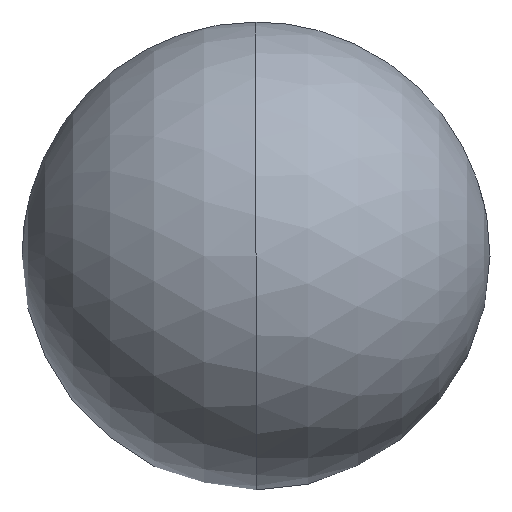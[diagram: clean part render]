
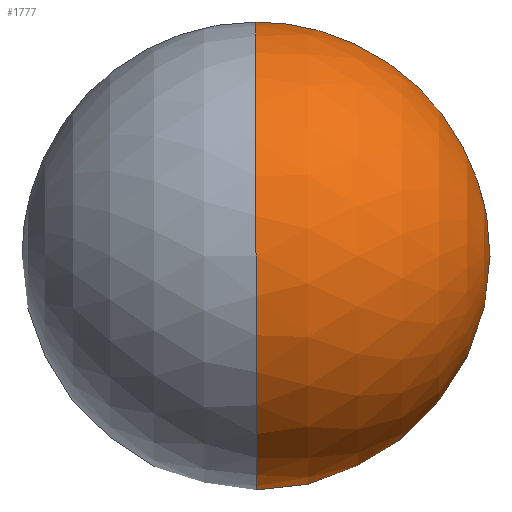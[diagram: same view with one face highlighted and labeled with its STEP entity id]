
A CAD part, front view. The second image highlights one B-rep face of the part: STEP entity #1777.
In plain terms, the highlighted spherical face has radius 200 mm.
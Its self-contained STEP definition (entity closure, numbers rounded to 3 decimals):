
#168 = EDGE_CURVE ( 'NONE', #1411, #1410, #3687, .T. ) ;
#192 = EDGE_CURVE ( 'NONE', #1410, #1413, #3716, .T. ) ;
#278 = EDGE_CURVE ( 'NONE', #1413, #1419, #3820, .T. ) ;
#280 = EDGE_CURVE ( 'NONE', #1411, #1419, #3822, .T. ) ;
#381 = ORIENTED_EDGE ( 'NONE', *, *, #278, .F. ) ;
#382 = ORIENTED_EDGE ( 'NONE', *, *, #192, .F. ) ;
#383 = ORIENTED_EDGE ( 'NONE', *, *, #168, .F. ) ;
#384 = ORIENTED_EDGE ( 'NONE', *, *, #280, .T. ) ;
#746 = AXIS2_PLACEMENT_3D ( 'NONE', #2773, #2780, #2781 ) ;
#794 = AXIS2_PLACEMENT_3D ( 'NONE', #2469, #2475, #2476 ) ;
#820 = AXIS2_PLACEMENT_3D ( 'NONE', #2539, #2540, #2541 ) ;
#823 = AXIS2_PLACEMENT_3D ( 'NONE', #2782, #2785, #2786 ) ;
#1410 = VERTEX_POINT ( 'NONE', #3176 ) ;
#1411 = VERTEX_POINT ( 'NONE', #3177 ) ;
#1413 = VERTEX_POINT ( 'NONE', #3179 ) ;
#1419 = VERTEX_POINT ( 'NONE', #3185 ) ;
#1777 = ADVANCED_FACE ( 'NONE', ( #5309 ), #5319, .T. ) ;
#1912 = AXIS2_PLACEMENT_3D ( 'NONE', #4467, #4466, #4469 ) ;
#2469 = CARTESIAN_POINT ( 'NONE',  ( 0., -195.959, 0. ) ) ;
#2475 = DIRECTION ( 'NONE',  ( 0., -1., 0. ) ) ;
#2476 = DIRECTION ( 'NONE',  ( 0., 0., 1. ) ) ;
#2539 = CARTESIAN_POINT ( 'NONE',  ( 0., -195.959, 0. ) ) ;
#2540 = DIRECTION ( 'NONE',  ( 0., -1., 0. ) ) ;
#2541 = DIRECTION ( 'NONE',  ( 0., 0., 1. ) ) ;
#2773 = CARTESIAN_POINT ( 'NONE',  ( 0., 0., 0. ) ) ;
#2780 = DIRECTION ( 'NONE',  ( 0., 0., 1. ) ) ;
#2781 = DIRECTION ( 'NONE',  ( 1., 0., 0. ) ) ;
#2782 = CARTESIAN_POINT ( 'NONE',  ( 0., 0., 0. ) ) ;
#2785 = DIRECTION ( 'NONE',  ( 0., 0., -1. ) ) ;
#2786 = DIRECTION ( 'NONE',  ( -1., 0., 0. ) ) ;
#3176 = CARTESIAN_POINT ( 'NONE',  ( 0., -195.959, -40. ) ) ;
#3177 = CARTESIAN_POINT ( 'NONE',  ( -40., -195.959, 0. ) ) ;
#3179 = CARTESIAN_POINT ( 'NONE',  ( 40., -195.959, 0. ) ) ;
#3185 = CARTESIAN_POINT ( 'NONE',  ( 0., 200., 0. ) ) ;
#3687 = CIRCLE ( 'NONE', #794, 40. ) ;
#3716 = CIRCLE ( 'NONE', #820, 40. ) ;
#3820 = CIRCLE ( 'NONE', #746, 200. ) ;
#3822 = CIRCLE ( 'NONE', #823, 200. ) ;
#4466 = DIRECTION ( 'NONE',  ( 0., 0., 1. ) ) ;
#4467 = CARTESIAN_POINT ( 'NONE',  ( 0., 0., 0. ) ) ;
#4469 = DIRECTION ( 'NONE',  ( -1., 0., 0. ) ) ;
#5309 = FACE_OUTER_BOUND ( 'NONE', #5794, .T. ) ;
#5319 = SPHERICAL_SURFACE ( 'NONE', #1912, 200. ) ;
#5794 = EDGE_LOOP ( 'NONE', ( #381, #382, #383, #384 ) ) ;
